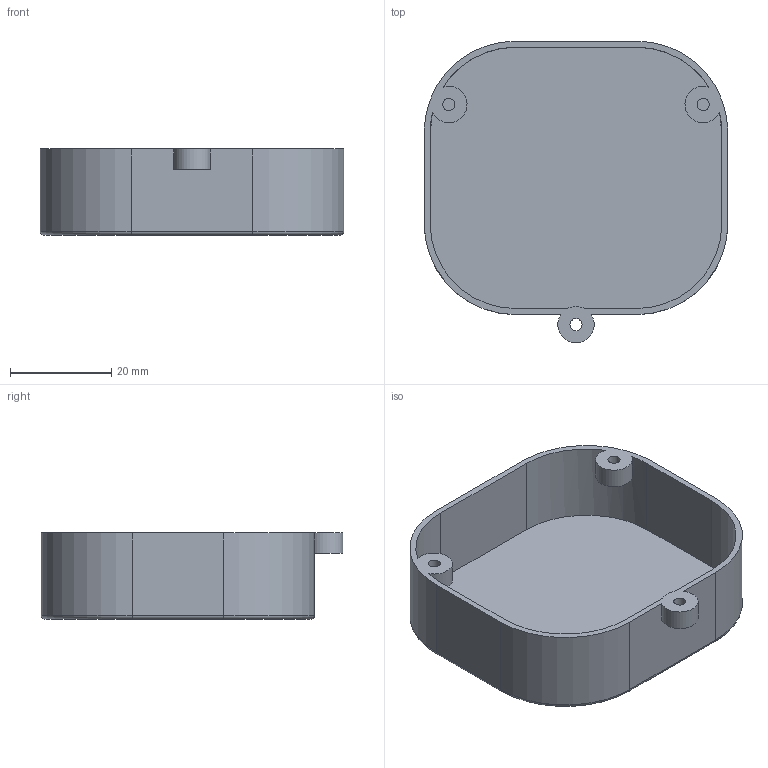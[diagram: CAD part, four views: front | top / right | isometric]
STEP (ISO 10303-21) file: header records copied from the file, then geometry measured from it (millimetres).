
FILE_DESCRIPTION(('Open CASCADE Model'),'2;1');
FILE_NAME('Open CASCADE Shape Model','2026-09-27T12:46:07',('Author'),( 'Open CASCADE'),'Open CASCADE STEP processor 7.8','Open CASCADE 7.8' ,'Unknown');
FILE_SCHEMA(('AUTOMOTIVE_DESIGN { 1 0 10303 214 1 1 1 1 }'));
Length unit declared in the file: millimetre
Products named in the file (1): Open CASCADE STEP translator 7.8 1
Bounding box: 60 x 59.59 x 17 mm (x, y, z)
Volume: 6973.4 mm3; surface area: 12694.4 mm2
Topology: 1 solids, 1 shells, 60 faces, 157 edges, 102 vertices
Faces by surface type: plane 37, cylinder 19, torus 4
Full cylindrical faces by diameter (mm): 2.4 x3
Entity records: 3847 total; most frequent: CARTESIAN_POINT 765, DIRECTION 548, ORIENTED_EDGE 314, PCURVE 314, DEFINITIONAL_REPRESENTATION 314, LINE 308, VECTOR 308, EDGE_CURVE 157
